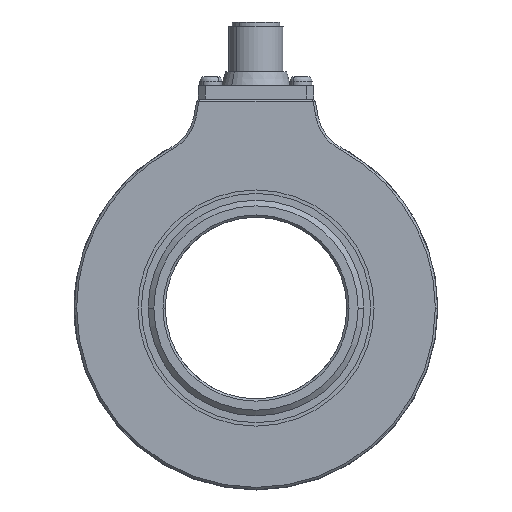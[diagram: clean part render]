
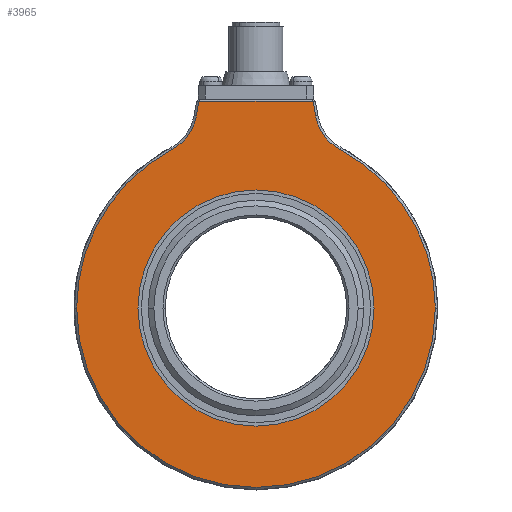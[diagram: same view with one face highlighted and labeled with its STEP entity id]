
A CAD part, left-side view. The second image highlights one B-rep face of the part: STEP entity #3965.
In plain terms, the highlighted planar face has unit normal (-1, 0, 0).
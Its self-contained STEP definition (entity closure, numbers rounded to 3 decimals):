
#529 = VERTEX_POINT ( 'NONE', #11342 ) ;
#533 = DIRECTION ( 'NONE',  ( -1., 0., 0. ) ) ;
#603 = CIRCLE ( 'NONE', #10128, 10.5 ) ;
#679 = DIRECTION ( 'NONE',  ( 0., -1., 0. ) ) ;
#753 = ORIENTED_EDGE ( 'NONE', *, *, #14172, .T. ) ;
#1262 = DIRECTION ( 'NONE',  ( 0., -1., 0. ) ) ;
#1396 = EDGE_CURVE ( 'NONE', #16217, #5599, #2370, .T. ) ;
#1477 = DIRECTION ( 'NONE',  ( 0., 0.174, -0.985 ) ) ;
#1546 = VERTEX_POINT ( 'NONE', #3800 ) ;
#2036 = DIRECTION ( 'NONE',  ( 0., -1., 0. ) ) ;
#2063 = DIRECTION ( 'NONE',  ( 0., -1., 0. ) ) ;
#2078 = CIRCLE ( 'NONE', #14887, 39.5 ) ;
#2094 = AXIS2_PLACEMENT_3D ( 'NONE', #17035, #12638, #1262 ) ;
#2118 = CARTESIAN_POINT ( 'NONE',  ( -26., 18.551, 34.873 ) ) ;
#2361 = CARTESIAN_POINT ( 'NONE',  ( -26., 0., 0. ) ) ;
#2370 = CIRCLE ( 'NONE', #18461, 10.5 ) ;
#2423 = CARTESIAN_POINT ( 'NONE',  ( -26., -18.551, 34.873 ) ) ;
#2479 = CARTESIAN_POINT ( 'NONE',  ( -26., 40., 0. ) ) ;
#2671 = DIRECTION ( 'NONE',  ( -1., 0., 0. ) ) ;
#3160 = VECTOR ( 'NONE', #1477, 1000. ) ;
#3351 = VERTEX_POINT ( 'NONE', #5007 ) ;
#3800 = CARTESIAN_POINT ( 'NONE',  ( -26., 26., 0. ) ) ;
#3812 = CARTESIAN_POINT ( 'NONE',  ( -26., -13.141, 42.32 ) ) ;
#3842 = DIRECTION ( 'NONE',  ( -1., 0., 0. ) ) ;
#3924 = CARTESIAN_POINT ( 'NONE',  ( -26., 0., 0. ) ) ;
#3934 = VECTOR ( 'NONE', #11240, 1000. ) ;
#3965 = ADVANCED_FACE ( 'NONE', ( #5352, #9652 ), #15258, .T. ) ;
#3966 = DIRECTION ( 'NONE',  ( 1., 0., 0. ) ) ;
#4027 = EDGE_CURVE ( 'NONE', #3351, #5044, #8358, .T. ) ;
#4028 = EDGE_CURVE ( 'NONE', #16884, #1546, #18315, .T. ) ;
#4073 = CARTESIAN_POINT ( 'NONE',  ( -26., -26., 0. ) ) ;
#4724 = CARTESIAN_POINT ( 'NONE',  ( -26., 0., 0. ) ) ;
#5007 = CARTESIAN_POINT ( 'NONE',  ( -26., -12.58, 45.5 ) ) ;
#5034 = CIRCLE ( 'NONE', #17560, 39.5 ) ;
#5044 = VERTEX_POINT ( 'NONE', #8967 ) ;
#5352 = FACE_OUTER_BOUND ( 'NONE', #10804, .T. ) ;
#5477 = ORIENTED_EDGE ( 'NONE', *, *, #5723, .T. ) ;
#5599 = VERTEX_POINT ( 'NONE', #3812 ) ;
#5723 = EDGE_CURVE ( 'NONE', #5044, #529, #6193, .T. ) ;
#6193 = LINE ( 'NONE', #8901, #3160 ) ;
#6225 = DIRECTION ( 'NONE',  ( 1., 0., 0. ) ) ;
#6880 = CIRCLE ( 'NONE', #17306, 26. ) ;
#8358 = LINE ( 'NONE', #13854, #14129 ) ;
#8480 = AXIS2_PLACEMENT_3D ( 'NONE', #16749, #3966, #18155 ) ;
#8542 = CARTESIAN_POINT ( 'NONE',  ( -26., -18.776, 10.364 ) ) ;
#8901 = CARTESIAN_POINT ( 'NONE',  ( -26., 21.188, -3.317 ) ) ;
#8967 = CARTESIAN_POINT ( 'NONE',  ( -26., 12.58, 45.5 ) ) ;
#9119 = DIRECTION ( 'NONE',  ( 0., -1., 0. ) ) ;
#9389 = ORIENTED_EDGE ( 'NONE', *, *, #12461, .T. ) ;
#9418 = CARTESIAN_POINT ( 'NONE',  ( -26., 23.482, 44.143 ) ) ;
#9554 = DIRECTION ( 'NONE',  ( 0., -1., 0. ) ) ;
#9652 = FACE_BOUND ( 'NONE', #14562, .T. ) ;
#10128 = AXIS2_PLACEMENT_3D ( 'NONE', #9418, #16343, #2063 ) ;
#10250 = AXIS2_PLACEMENT_3D ( 'NONE', #2479, #2671, #9554 ) ;
#10509 = EDGE_CURVE ( 'NONE', #529, #14876, #603, .T. ) ;
#10611 = CARTESIAN_POINT ( 'NONE',  ( -26., -23.482, 44.143 ) ) ;
#10735 = EDGE_CURVE ( 'NONE', #1546, #16884, #6880, .T. ) ;
#10804 = EDGE_LOOP ( 'NONE', ( #13261, #11852, #5477, #17474, #13956, #9389, #753, #15764 ) ) ;
#11240 = DIRECTION ( 'NONE',  ( 0., 0.174, 0.985 ) ) ;
#11342 = CARTESIAN_POINT ( 'NONE',  ( -26., 13.141, 42.32 ) ) ;
#11766 = ORIENTED_EDGE ( 'NONE', *, *, #4028, .T. ) ;
#11852 = ORIENTED_EDGE ( 'NONE', *, *, #4027, .T. ) ;
#12461 = EDGE_CURVE ( 'NONE', #12735, #13639, #2078, .T. ) ;
#12638 = DIRECTION ( 'NONE',  ( -1., 0., 0. ) ) ;
#12735 = VERTEX_POINT ( 'NONE', #17049 ) ;
#13261 = ORIENTED_EDGE ( 'NONE', *, *, #15647, .T. ) ;
#13639 = VERTEX_POINT ( 'NONE', #16223 ) ;
#13697 = CIRCLE ( 'NONE', #2094, 39.5 ) ;
#13854 = CARTESIAN_POINT ( 'NONE',  ( -26., 40., 45.5 ) ) ;
#13956 = ORIENTED_EDGE ( 'NONE', *, *, #15080, .T. ) ;
#14129 = VECTOR ( 'NONE', #18251, 1000. ) ;
#14172 = EDGE_CURVE ( 'NONE', #13639, #16217, #5034, .T. ) ;
#14562 = EDGE_LOOP ( 'NONE', ( #16944, #11766 ) ) ;
#14876 = VERTEX_POINT ( 'NONE', #2118 ) ;
#14887 = AXIS2_PLACEMENT_3D ( 'NONE', #4724, #533, #9119 ) ;
#15080 = EDGE_CURVE ( 'NONE', #14876, #12735, #13697, .T. ) ;
#15258 = PLANE ( 'NONE',  #10250 ) ;
#15309 = DIRECTION ( 'NONE',  ( 0., 1., 0. ) ) ;
#15647 = EDGE_CURVE ( 'NONE', #5599, #3351, #16759, .T. ) ;
#15764 = ORIENTED_EDGE ( 'NONE', *, *, #1396, .T. ) ;
#16217 = VERTEX_POINT ( 'NONE', #2423 ) ;
#16223 = CARTESIAN_POINT ( 'NONE',  ( -26., -39.5, 0. ) ) ;
#16343 = DIRECTION ( 'NONE',  ( 1., 0., 0. ) ) ;
#16749 = CARTESIAN_POINT ( 'NONE',  ( -26., 0., 0. ) ) ;
#16759 = LINE ( 'NONE', #8542, #3934 ) ;
#16884 = VERTEX_POINT ( 'NONE', #4073 ) ;
#16944 = ORIENTED_EDGE ( 'NONE', *, *, #10735, .T. ) ;
#17035 = CARTESIAN_POINT ( 'NONE',  ( -26., 0., 0. ) ) ;
#17049 = CARTESIAN_POINT ( 'NONE',  ( -26., 39.5, 0. ) ) ;
#17306 = AXIS2_PLACEMENT_3D ( 'NONE', #3924, #18300, #15309 ) ;
#17474 = ORIENTED_EDGE ( 'NONE', *, *, #10509, .T. ) ;
#17560 = AXIS2_PLACEMENT_3D ( 'NONE', #2361, #3842, #679 ) ;
#18155 = DIRECTION ( 'NONE',  ( 0., 1., 0. ) ) ;
#18251 = DIRECTION ( 'NONE',  ( 0., 1., 0. ) ) ;
#18300 = DIRECTION ( 'NONE',  ( 1., 0., 0. ) ) ;
#18315 = CIRCLE ( 'NONE', #8480, 26. ) ;
#18461 = AXIS2_PLACEMENT_3D ( 'NONE', #10611, #6225, #2036 ) ;
